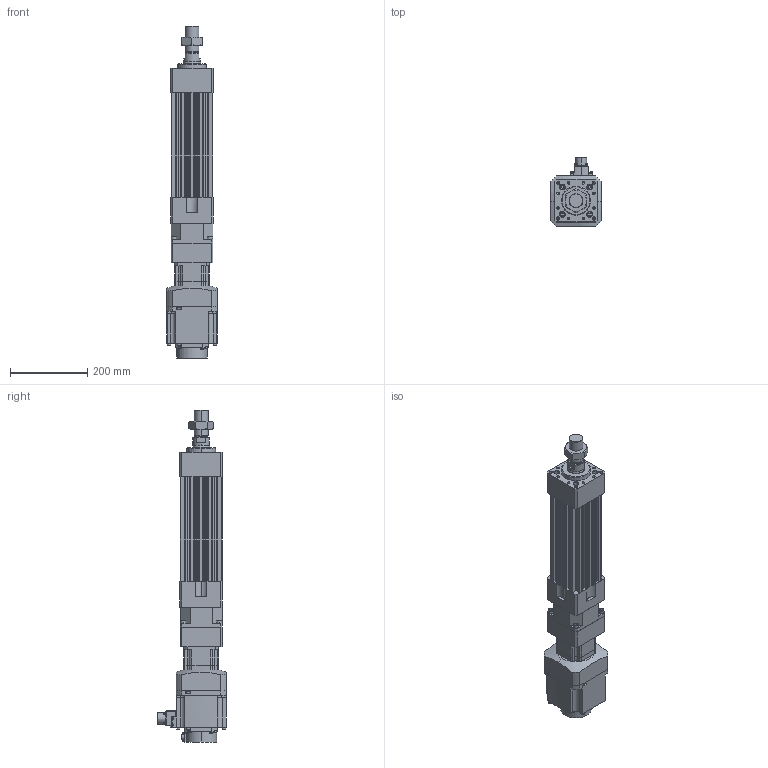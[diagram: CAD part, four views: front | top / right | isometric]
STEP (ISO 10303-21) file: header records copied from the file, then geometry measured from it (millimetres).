
FILE_DESCRIPTION (( 'STEP AP203' ), '1' );
FILE_NAME ('HES110NS(HS)-S100-W010G00-M.STEP', '2023-01-27T04:14:14', ( 'tms' ), ( '' ), 'SwSTEP 2.0', 'SolidWorks 2013', '' );
FILE_SCHEMA (( 'CONFIG_CONTROL_DESIGN' ));
Length unit declared in the file: millimetre
Products named in the file (8): HG-SR102; AB0901; P0401301004; AB090-003[HG-SR102B]; HES110-S100-G090; HES110NS(HS)-S100-W010G00-M; M36X1.5P; HES110 ROD M ST100
Assembly tree (7 placements, depth 3):
  HES110NS(HS)-S100-W010G00-M
    HES110-S100-G090
    HES110 ROD M ST100
    M36X1.5P
    AB090-003[HG-SR102B]
      AB0901
      P0401301004
    HG-SR102
Bounding box: 130 x 177.49 x 858.5 mm (x, y, z)
Volume: 5557318.1 mm3; surface area: 704416.1 mm2
Topology: 4 solids, 15 shells, 1197 faces, 3018 edges, 1947 vertices
Faces by surface type: plane 550, cylinder 535, cone 100, bspline 8, torus 4
Entity records: 37761 total; most frequent: CARTESIAN_POINT 7330, DIRECTION 6511, ORIENTED_EDGE 5944, EDGE_CURVE 2982, AXIS2_PLACEMENT_3D 2399, VERTEX_POINT 1947, VECTOR 1713, LINE 1713
